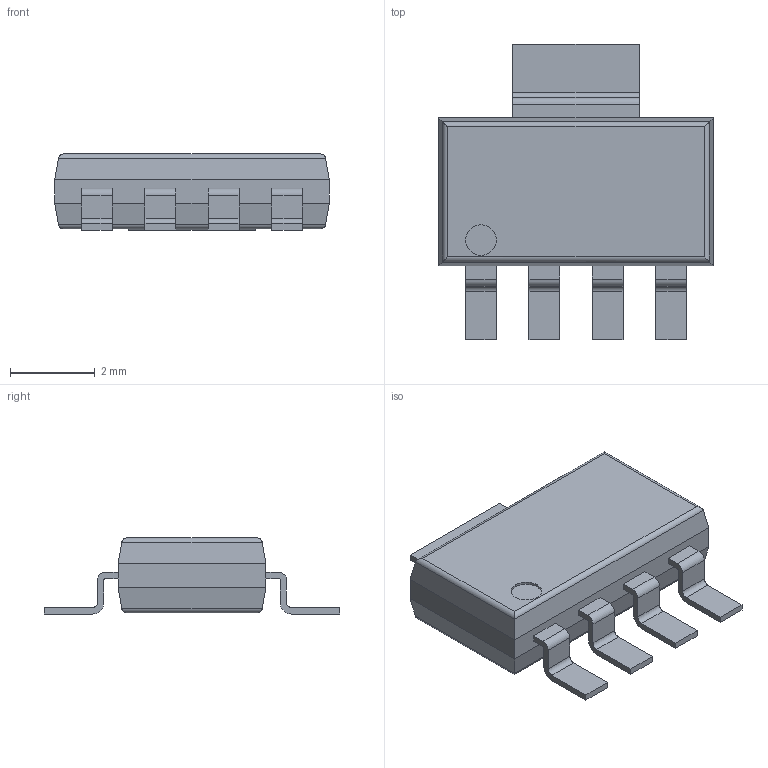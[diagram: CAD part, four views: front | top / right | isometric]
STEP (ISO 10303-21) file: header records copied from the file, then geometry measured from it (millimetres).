
FILE_DESCRIPTION (( 'STEP AP214' ), '1' );
FILE_NAME ( 'SOT223-5P150_700X180L110X72.STEP', '2021-10-06T06:48:57', ( '' ), ( '' ), '', '©2017 PCB Libraries, Inc.', '' );
FILE_SCHEMA (( 'AUTOMOTIVE_DESIGN' ));
Length unit declared in the file: millimetre
Products named in the file (1): SOT223-5P150_700X180L110X72
Bounding box: 6.5 x 7 x 1.8 mm (x, y, z)
Volume: 41.1 mm3; surface area: 109.9 mm2
Topology: 6 solids, 6 shells, 95 faces, 230 edges, 148 vertices
Faces by surface type: plane 65, cylinder 30
Entity records: 2901 total; most frequent: CARTESIAN_POINT 498, ORIENTED_EDGE 460, DIRECTION 458, EDGE_CURVE 230, VECTOR 178, LINE 178, VERTEX_POINT 148, AXIS2_PLACEMENT_3D 140
